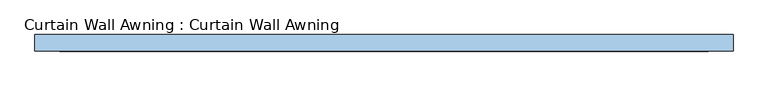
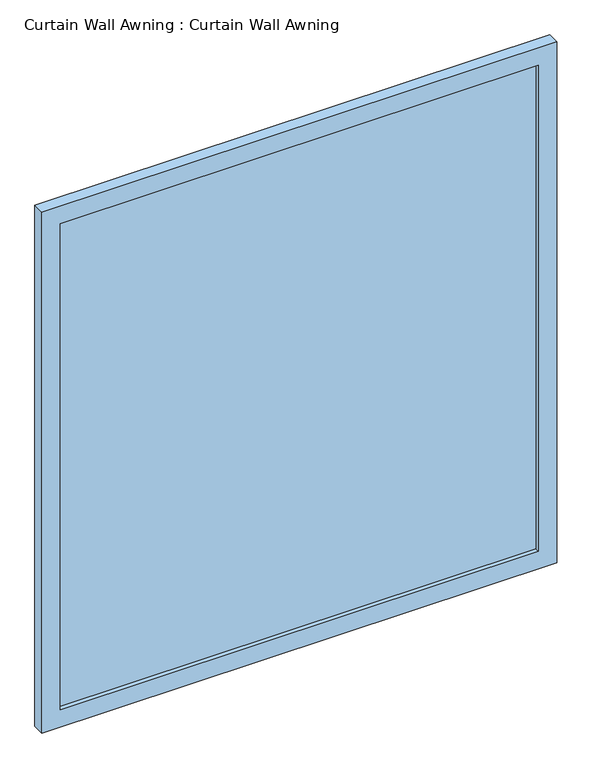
"""IFC4 building model written with IfcOpenShell, lengths in millimetres: window geometry, Curtain Wall Awning : Curtain Wall Awning."""

from ifc_helpers import new_model, si_unit, frame, origin, place, context, project, spatial, polyline, outline, extrude, source, transform, mapped, element, save


def curtain_wall_awning_curtain_wall_awning_72255bb9(model_context):
    return source(origin(), model_context, "Body", "SweptSolid", [
        extrude(outline(polyline([(998.8, -44.45), (998.8, -57.15), (-998.8, -57.15), (-998.8, -44.45), (998.8, -44.45)])), frame((0.0, 0.0, 76.2), z_axis=(0.0, 0.0, 1.0), x_axis=(1.0, 0.0, 0.0)), (0.0, 0.0, 1.0), 2147.6),
        extrude(outline(polyline([(2300.0, -1075.0), (0.0, -1075.0), (0.0, 1075.0), (2300.0, 1075.0), (2300.0, -1075.0)]), holes=[polyline([(2223.8, -998.8), (2223.8, 998.8), (76.2, 998.8), (76.2, -998.8), (2223.8, -998.8)])]), frame((0.0, -76.2, 0.0), z_axis=(0.0, 1.0, 0.0), x_axis=(0.0, 0.0, 1.0)), (0.0, 0.0, 1.0), 50.8),
    ])


if __name__ == "__main__":
    model = new_model("IFC4")
    model_context = context("Model", 3, world=origin())
    ifc_project = project(units=[si_unit("LENGTHUNIT", "METRE", prefix="MILLI")], contexts=[model_context])
    site = spatial("IfcSite", under=ifc_project)
    building = spatial("IfcBuilding", under=site)
    placement = place(None, origin())
    curtain_wall_awning_curtain_wall_awning_shape = curtain_wall_awning_curtain_wall_awning_72255bb9(model_context)
    element("IfcWindow", 1, ObjectType="Curtain Wall Awning : Curtain Wall Awning", at=placement, inside=building, context=model_context, shape_type="MappedRepresentation", body=[
        mapped(curtain_wall_awning_curtain_wall_awning_shape, transform((0.0, 0.0, 0.0), x_axis=(1.0, 0.0, 0.0), y_axis=(0.0, 1.0, 0.0), z_axis=(0.0, 0.0, 1.0))),
    ])
    save(model, "model.ifc")
